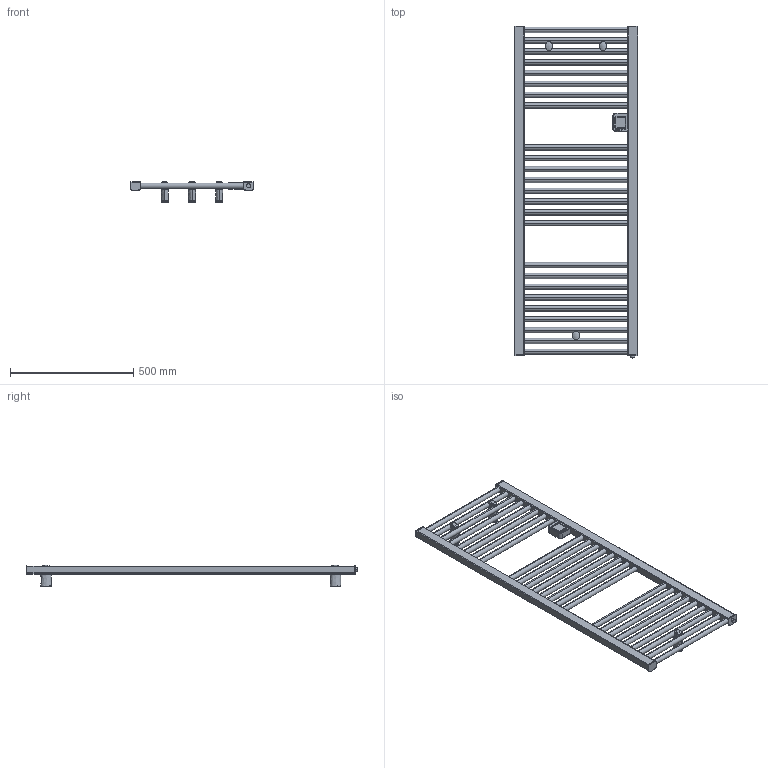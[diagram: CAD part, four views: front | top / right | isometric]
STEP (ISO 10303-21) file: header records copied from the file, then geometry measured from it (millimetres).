
FILE_DESCRIPTION((''),'2;1');
FILE_NAME('3581860150003-15_3D_SITO_ASM','2026-04-15T14:59:56',('PC104'),(''),'CREO PARAMETRIC BY PTC INC, 2025323','CREO PARAMETRIC BY PTC INC, 2025323','');
FILE_SCHEMA(('AUTOMOTIVE_DESIGN { 1 0 10303 214 1 1 1 1 }'));
Length unit declared in the file: millimetre
Products named in the file (14): 3581860150003-15_3D_SITO; TMT_PRC_AF2; BICCHIERE_PARETE; PERNO_SCORROVOLE; PERNO_SCORREVOLE_AF6_ASM; BASETTA_ANTERIORE; 1527181430001; 1102001310058_AF6_ASM; PERNO_SCORREVOLE_AF7_ASM; 1102001310058_AF7_ASM; PERNO_SCORREVOLE_AF8_ASM; 1102001310058_AF8_ASM; 1102000000200_AF2_ASM; 3581860150003-15_3D_SITO_ASM
Assembly tree (21 placements, depth 5):
  3581860150003-15_3D_SITO_ASM
    3581860150003-15_3D_SITO
    TMT_PRC_AF2
    1102000000200_AF2_ASM
      1102001310058_AF6_ASM
        BICCHIERE_PARETE
        PERNO_SCORREVOLE_AF6_ASM
          PERNO_SCORROVOLE
        BASETTA_ANTERIORE
        1527181430001
      1102001310058_AF7_ASM
        BICCHIERE_PARETE
        PERNO_SCORREVOLE_AF7_ASM
          PERNO_SCORROVOLE
        BASETTA_ANTERIORE
        1527181430001
      1102001310058_AF8_ASM
        BICCHIERE_PARETE
        PERNO_SCORREVOLE_AF8_ASM
          PERNO_SCORROVOLE
        BASETTA_ANTERIORE
        1527181430001
Bounding box: 503.5 x 1349 x 86.46 mm (x, y, z)
Volume: 7645010.9 mm3; surface area: 1213370.2 mm2
Topology: 25 solids, 25 shells, 4264 faces, 10529 edges, 6367 vertices
Faces by surface type: cylinder 1718, plane 756, torus 648, sphere 570, bspline 486, extrusion 56, cone 30
Entity records: 98101 total; most frequent: CARTESIAN_POINT 28784, DIRECTION 9909, ORIENTED_EDGE 7158, PRESENTATION_STYLE_ASSIGNMENT 4903, STYLED_ITEM 4901, CURVE_STYLE 4884, EDGE_CURVE 3579, AXIS2_PLACEMENT_3D 3537
